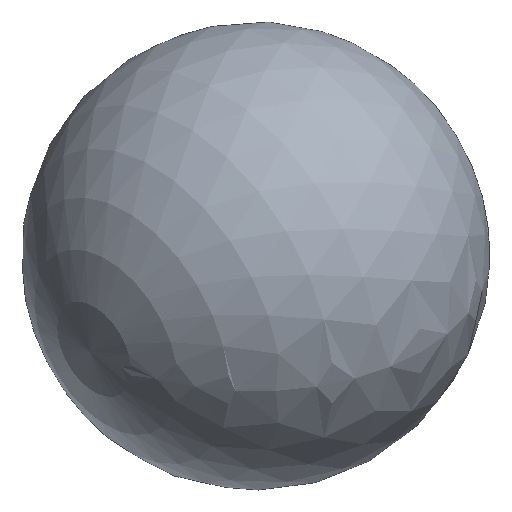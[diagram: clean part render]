
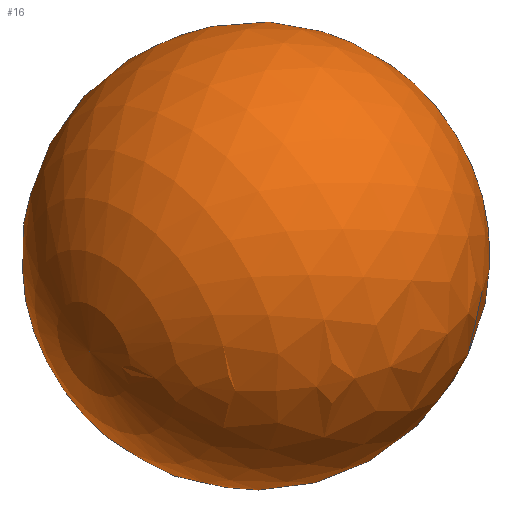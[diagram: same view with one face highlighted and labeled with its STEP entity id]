
A CAD part, isometric view. The second image highlights one B-rep face of the part: STEP entity #16.
In plain terms, the highlighted spherical face has radius 0.26 mm.
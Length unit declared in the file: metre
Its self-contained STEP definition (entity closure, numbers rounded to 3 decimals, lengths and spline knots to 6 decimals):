
#12=VERTEX_POINT('',#37);
#13=VERTEX_LOOP('',#12);
#14=FACE_BOUND('',#13,.T.);
#15=SPHERICAL_SURFACE('',#30,0.00026);
#16=ADVANCED_FACE('',(#14),#15,.T.);
#30=AXIS2_PLACEMENT_3D('',#36,#33,#34);
#33=DIRECTION('',(-1.,0.,0.));
#34=DIRECTION('',(0.,-1.,0.));
#36=CARTESIAN_POINT('',(-0.092677,-0.067801,-0.025701));
#37=CARTESIAN_POINT('',(-0.092417,-0.067801,-0.025701));
